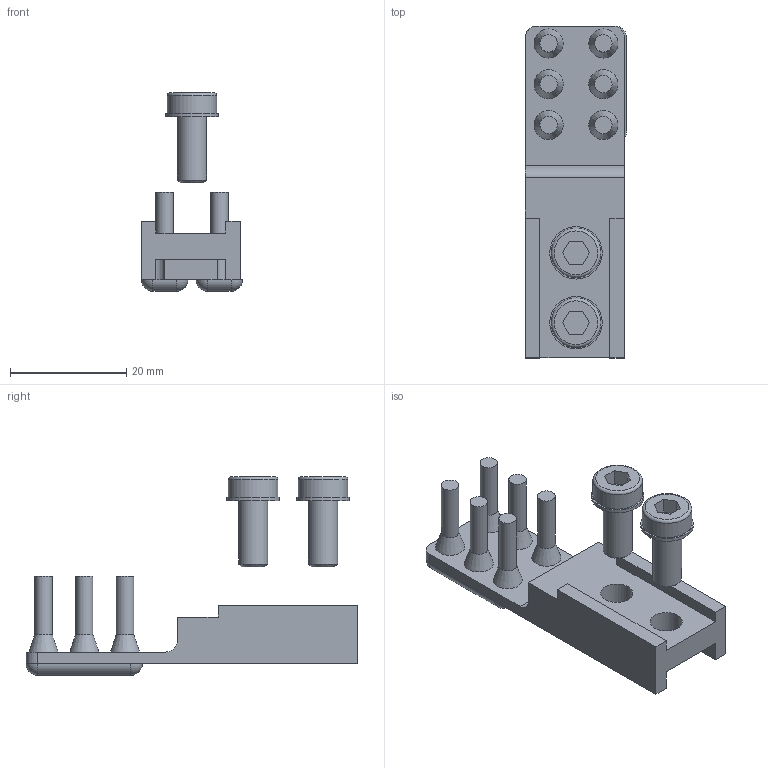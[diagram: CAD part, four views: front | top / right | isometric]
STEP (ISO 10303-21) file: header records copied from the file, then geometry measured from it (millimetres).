
FILE_DESCRIPTION((''),'2;1');
FILE_NAME('W:\Technik\Konstruktion\CAD-Daten\EOAT\GR04_\GR04.122-25-4\Aktueller Zeichnugsstand PDF--STEP\GR04.122-25-4_Index A.stp','2015-03-25T13:11:22',('tzierer'),(''),'Autodesk Inventor 2012','Autodesk Inventor 2012','');
FILE_SCHEMA(('AUTOMOTIVE_DESIGN { 1 0 10303 214 1 1 1 1 }'));
Length unit declared in the file: millimetre
Products named in the file (5): GR04.122-25-4; GR04.122-25-4-1; GR04; DIN7984-M5x12; Schnorr S5
Assembly tree (7 placements, depth 2):
  GR04.122-25-4
    GR04.122-25-4-1
    GR04  x2
    DIN7984-M5x12  x2
    Schnorr S5  x2
Bounding box: 17.4 x 57 x 34.1 mm (x, y, z)
Volume: 6132.7 mm3; surface area: 6070.2 mm2
Topology: 7 solids, 7 shells, 123 faces, 269 edges, 174 vertices
Faces by surface type: plane 58, cylinder 41, sphere 8, torus 8, cone 8
Full cylindrical faces by diameter (mm): 3 x18, 5 x2, 5.3 x2, 5.5 x2, 8.5 x2, 9 x2
Entity records: 2214 total; most frequent: DIRECTION 389, CARTESIAN_POINT 344, ORIENTED_EDGE 290, AXIS2_PLACEMENT_3D 155, EDGE_CURVE 145, EDGE_LOOP 129, VERTEX_POINT 110, VECTOR 79
